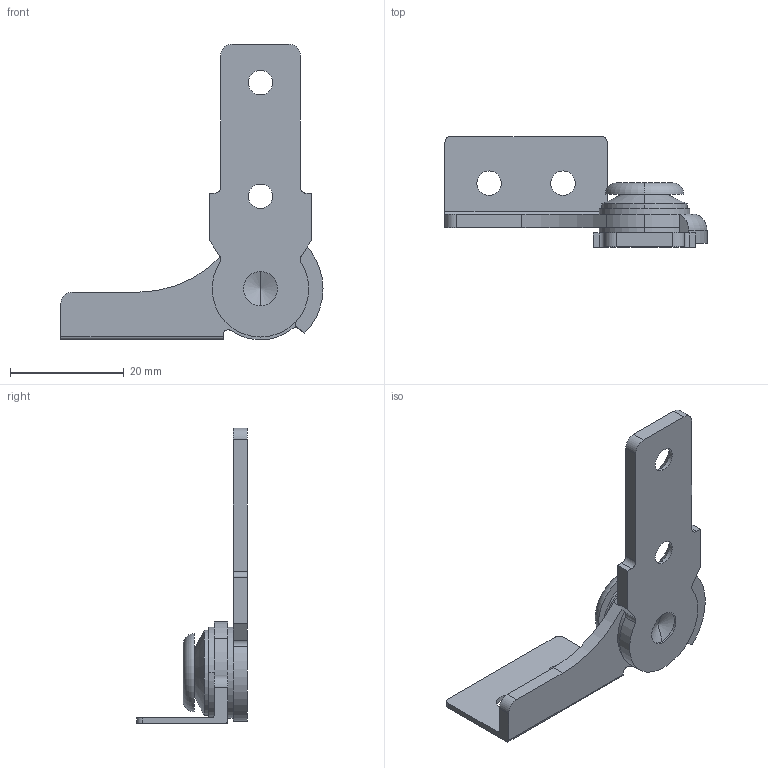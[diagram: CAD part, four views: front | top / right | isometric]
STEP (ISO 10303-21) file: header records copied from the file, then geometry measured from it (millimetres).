
FILE_DESCRIPTION (( 'STEP AP203' ), '1' );
FILE_NAME ('XG11-122-20L.STEP', '2025-05-23T06:47:08', ( '微软用户' ), ( '微软中国' ), 'SwSTEP 2.0', 'SolidWorks 2024', '' );
FILE_SCHEMA (( 'CONFIG_CONTROL_DESIGN' ));
Length unit declared in the file: millimetre
Products named in the file (3): XG11-122-20L; XG11-122-20板
Assembly tree (2 placements, depth 2):
  XG11-122-20L
    XG11-122-20板
    XG11-122-20L
Bounding box: 46.09 x 19.5 x 52 mm (x, y, z)
Volume: 4485.9 mm3; surface area: 4423.6 mm2
Topology: 2 solids, 2 shells, 76 faces, 193 edges, 124 vertices
Faces by surface type: cylinder 38, plane 27, cone 8, torus 3
Entity records: 2650 total; most frequent: DIRECTION 435, CARTESIAN_POINT 433, ORIENTED_EDGE 382, EDGE_CURVE 191, AXIS2_PLACEMENT_3D 168, VERTEX_POINT 124, VECTOR 99, LINE 99
